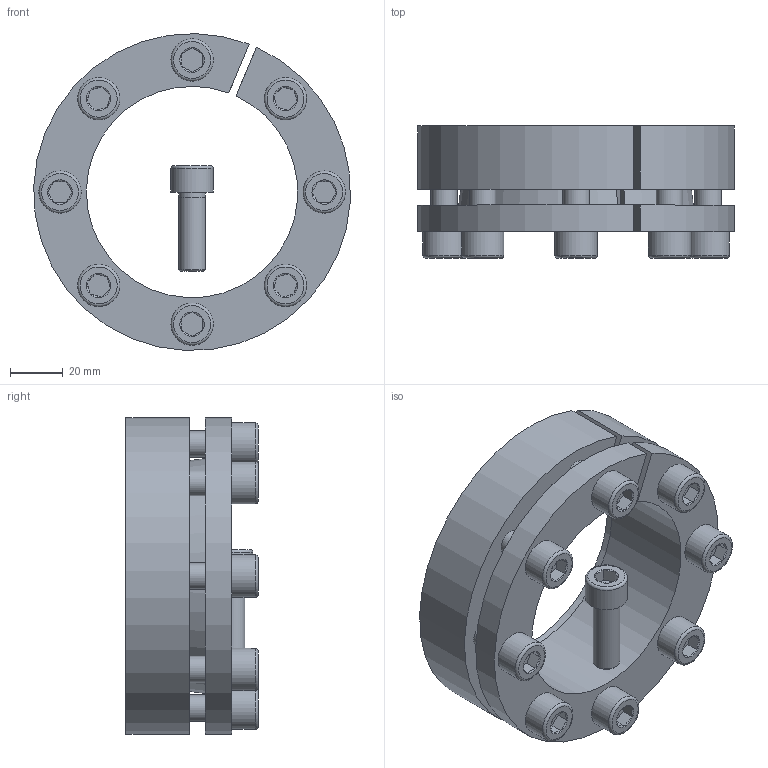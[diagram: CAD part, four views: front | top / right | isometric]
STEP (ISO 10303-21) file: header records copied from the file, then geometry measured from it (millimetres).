
FILE_DESCRIPTION( ( 'Unknown' ), '1' );
FILE_NAME( 'C:/Dokumente und Einstellungen/Sven/Desktop/homepage/cad - homepage/KBS13/KBS 13 - 80 x 120.stp', 'Unknown', ( 'Unknown' ), ( 'Unknown' ), 'XStep 1.0', 'Unknown', ' ' );
FILE_SCHEMA( ( 'automotive_design' ) );
Length unit declared in the file: millimetre
Products named in the file (3): Assem1; KBS 13 - 80 x 120; ISO EN DIN 4762 M10x30
Bounding box: 119.86 x 50 x 119.92 mm (x, y, z)
Volume: 428916.2 mm3; surface area: 127022.6 mm2
Topology: 11 solids, 11 shells, 281 faces, 573 edges, 350 vertices
Faces by surface type: plane 122, cylinder 74, cone 67, torus 18
Full cylindrical faces by diameter (mm): 9 x9, 10 x50, 16 x9
Entity records: 1774 total; most frequent: CARTESIAN_POINT 293, DIRECTION 272, ORIENTED_EDGE 194, AXIS2_PLACEMENT_3D 122, EDGE_LOOP 112, EDGE_CURVE 97, FACE_OUTER_BOUND 75, VERTEX_POINT 75
